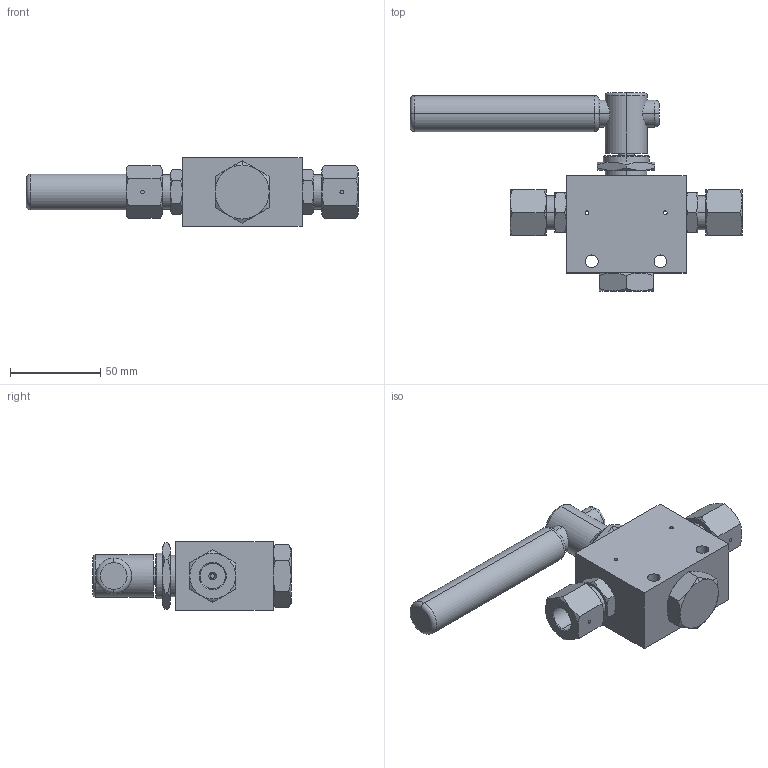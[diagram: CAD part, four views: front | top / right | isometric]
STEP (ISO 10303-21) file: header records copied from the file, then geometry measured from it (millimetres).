
FILE_DESCRIPTION (( 'STEP AP203' ), '1' );
FILE_NAME ('BV6003S04-2-90.STEP', '2022-04-12T10:12:58', ( '' ), ( '' ), 'SwSTEP 2.0', 'SolidWorks 2020', '' );
FILE_SCHEMA (( 'CONFIG_CONTROL_DESIGN' ));
Length unit declared in the file: millimetre
Products named in the file (1): BV6003S04-2-90
Bounding box: 184.33 x 110 x 38 mm (x, y, z)
Volume: 223206.1 mm3; surface area: 39188.8 mm2
Topology: 1 solids, 1 shells, 208 faces, 456 edges, 266 vertices
Faces by surface type: cone 98, plane 60, cylinder 42, torus 8
Entity records: 6445 total; most frequent: CARTESIAN_POINT 1983, ORIENTED_EDGE 904, DIRECTION 902, EDGE_CURVE 452, AXIS2_PLACEMENT_3D 393, VERTEX_POINT 266, EDGE_LOOP 240, ADVANCED_FACE 208
